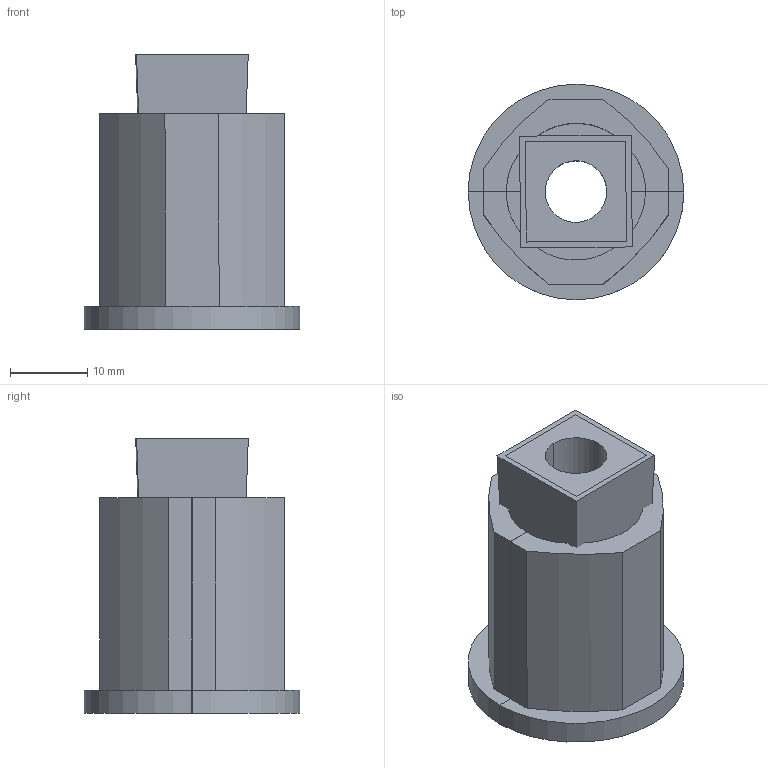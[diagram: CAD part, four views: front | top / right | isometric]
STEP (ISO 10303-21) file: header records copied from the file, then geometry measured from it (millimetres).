
FILE_DESCRIPTION (( 'STEP AP203' ), '1' );
FILE_NAME ('1096.STEP', '2016-05-29T11:02:06', ( 'RosInstal-MKM' ), ( '' ), 'SwSTEP 2.0', 'SolidWorks 2014', '' );
FILE_SCHEMA (( 'CONFIG_CONTROL_DESIGN' ));
Length unit declared in the file: millimetre
Products named in the file (3): 櫻蠉錪91; 櫻蠉錪9; 1096
Assembly tree (3 placements, depth 2):
  1096
    櫻蠉錪91  x2
    櫻蠉錪9
Bounding box: 28.02 x 28 x 35.68 mm (x, y, z)
Volume: 10941.8 mm3; surface area: 8494.7 mm2
Topology: 4 solids, 4 shells, 58 faces, 150 edges, 100 vertices
Faces by surface type: plane 38, cylinder 20
Entity records: 1454 total; most frequent: DIRECTION 203, CARTESIAN_POINT 198, ORIENTED_EDGE 186, EDGE_CURVE 93, LINE 69, VECTOR 69, AXIS2_PLACEMENT_3D 67, VERTEX_POINT 62
